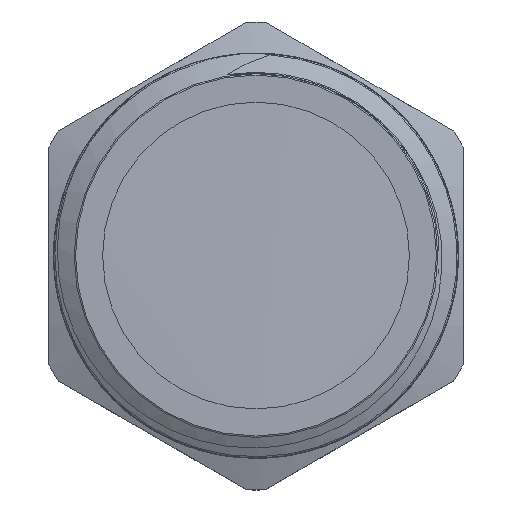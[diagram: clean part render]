
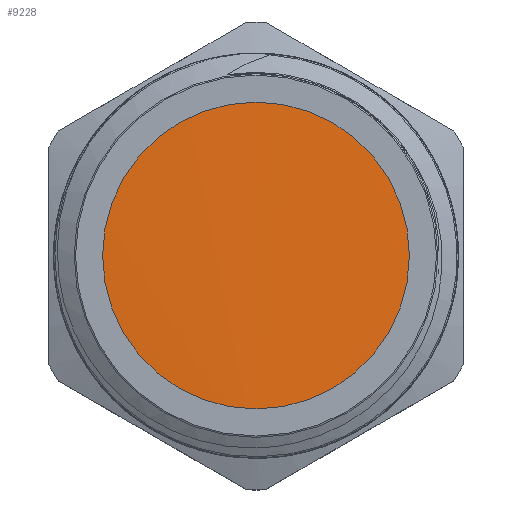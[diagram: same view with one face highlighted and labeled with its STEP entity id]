
A CAD part, top view. The second image highlights one B-rep face of the part: STEP entity #9228.
In plain terms, the highlighted cylindrical face has radius 13.2 mm (diameter 26.4 mm), a full revolution.
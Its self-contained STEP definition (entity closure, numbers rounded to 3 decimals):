
#1044=FACE_OUTER_BOUND('',#1600,.T.);
#1600=EDGE_LOOP('',(#8586,#8587,#8588));
#2235=B_SPLINE_CURVE_WITH_KNOTS('',3,(#21690,#21691,#21692,#21693,#21694,
#21695,#21696,#21697,#21698,#21699,#21700,#21701,#21702,#21703,#21704,#21705,
#21706),.UNSPECIFIED.,.F.,.F.,(4,1,1,1,1,1,1,1,1,1,1,1,1,1,4),(18.85,
19.044,19.533,20.022,20.512,21.001,
21.49,21.979,22.469,22.958,23.447,
23.937,24.426,24.915,25.133),
 .UNSPECIFIED.);
#2752=LINE('',#21469,#3255);
#2758=LINE('',#21689,#3261);
#3255=VECTOR('',#11030,13.2);
#3261=VECTOR('',#11050,13.2);
#4418=VERTEX_POINT('',#21467);
#4419=VERTEX_POINT('',#21468);
#4427=VERTEX_POINT('',#21688);
#5805=EDGE_CURVE('',#4418,#4419,#2752,.T.);
#5819=EDGE_CURVE('',#4427,#4419,#2758,.T.);
#5820=EDGE_CURVE('',#4427,#4418,#2235,.T.);
#8586=ORIENTED_EDGE('',*,*,#5805,.T.);
#8587=ORIENTED_EDGE('',*,*,#5819,.F.);
#8588=ORIENTED_EDGE('',*,*,#5820,.T.);
#8727=CYLINDRICAL_SURFACE('',#9687,13.2);
#9228=ADVANCED_FACE('',(#1044),#8727,.T.);
#9687=AXIS2_PLACEMENT_3D('',#21687,#11048,#11049);
#11030=DIRECTION('',(0.,0.,1.));
#11048=DIRECTION('center_axis',(0.,0.,1.));
#11049=DIRECTION('ref_axis',(0.,1.,0.));
#11050=DIRECTION('',(0.,0.,-1.));
#21467=CARTESIAN_POINT('',(0.,-13.2,45.743));
#21468=CARTESIAN_POINT('',(0.,-13.2,47.542));
#21469=CARTESIAN_POINT('',(0.,-13.2,47.));
#21687=CARTESIAN_POINT('Origin',(0.,0.,47.));
#21688=CARTESIAN_POINT('',(0.,-13.2,47.559));
#21689=CARTESIAN_POINT('',(0.,-13.2,47.));
#21690=CARTESIAN_POINT('Ctrl Pts',(0.,-13.199,
47.559));
#21691=CARTESIAN_POINT('Ctrl Pts',(-0.855,-13.2,
47.541));
#21692=CARTESIAN_POINT('Ctrl Pts',(-3.862,-12.912,
47.475));
#21693=CARTESIAN_POINT('Ctrl Pts',(-8.675,-10.653,
47.362));
#21694=CARTESIAN_POINT('Ctrl Pts',(-12.664,-5.325,
47.22));
#21695=CARTESIAN_POINT('Ctrl Pts',(-13.681,1.252,47.079));
#21696=CARTESIAN_POINT('Ctrl Pts',(-11.488,7.535,46.938));
#21697=CARTESIAN_POINT('Ctrl Pts',(-6.599,12.05,46.796));
#21698=CARTESIAN_POINT('Ctrl Pts',(-0.161,13.737,
46.655));
#21699=CARTESIAN_POINT('Ctrl Pts',(6.314,12.201,46.513));
#21700=CARTESIAN_POINT('Ctrl Pts',(11.308,7.802,46.372));
#21701=CARTESIAN_POINT('Ctrl Pts',(13.648,1.572,46.23));
#21702=CARTESIAN_POINT('Ctrl Pts',(12.786,-5.027,46.089));
#21703=CARTESIAN_POINT('Ctrl Pts',(8.923,-10.446,45.948));
#21704=CARTESIAN_POINT('Ctrl Pts',(4.069,-12.865,45.832));
#21705=CARTESIAN_POINT('Ctrl Pts',(0.958,-13.199,
45.764));
#21706=CARTESIAN_POINT('Ctrl Pts',(0.,-13.199,
45.743));
